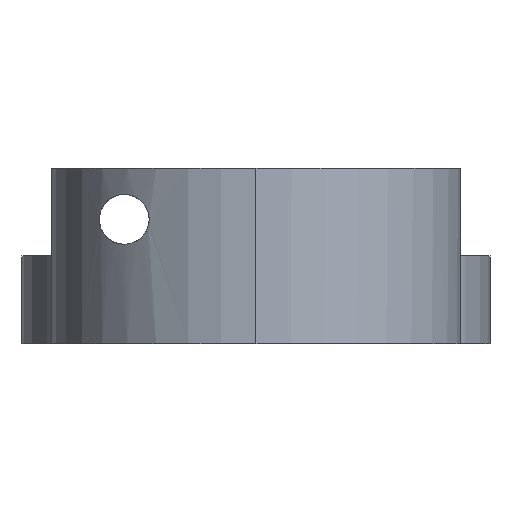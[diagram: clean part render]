
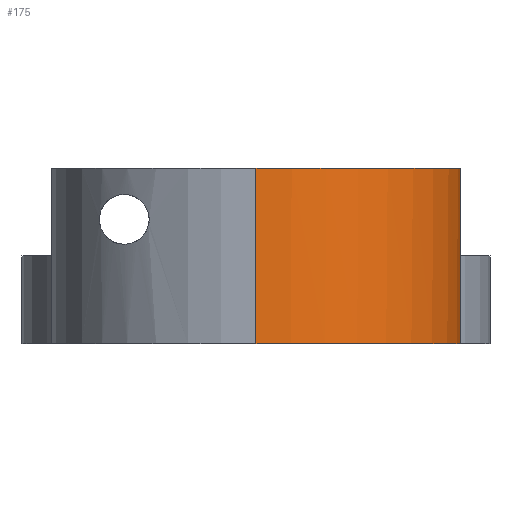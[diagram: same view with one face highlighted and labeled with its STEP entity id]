
A CAD part, left-side view. The second image highlights one B-rep face of the part: STEP entity #175.
In plain terms, the highlighted cylindrical face has radius 14 mm (diameter 28 mm), a partial arc.
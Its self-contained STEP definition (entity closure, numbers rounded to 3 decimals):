
#14 = CARTESIAN_POINT ( 'NONE',  ( 8.66, -11., 0. ) ) ;
#15 = DIRECTION ( 'NONE',  ( -1., 0., 0. ) ) ;
#18 = CIRCLE ( 'NONE', #178, 14. ) ;
#98 = LINE ( 'NONE', #553, #800 ) ;
#135 = EDGE_CURVE ( 'NONE', #830, #547, #450, .T. ) ;
#141 = ORIENTED_EDGE ( 'NONE', *, *, #135, .T. ) ;
#144 = AXIS2_PLACEMENT_3D ( 'NONE', #611, #232, #157 ) ;
#151 = EDGE_CURVE ( 'NONE', #488, #830, #736, .T. ) ;
#152 = DIRECTION ( 'NONE',  ( 0., 0., 1. ) ) ;
#157 = DIRECTION ( 'NONE',  ( 1., 0., 0. ) ) ;
#172 = ORIENTED_EDGE ( 'NONE', *, *, #486, .T. ) ;
#175 = ADVANCED_FACE ( 'NONE', ( #534 ), #302, .T. ) ;
#178 = AXIS2_PLACEMENT_3D ( 'NONE', #856, #456, #778 ) ;
#203 = VECTOR ( 'NONE', #824, 1000. ) ;
#220 = VERTEX_POINT ( 'NONE', #651 ) ;
#224 = DIRECTION ( 'NONE',  ( 1., 0., 0. ) ) ;
#232 = DIRECTION ( 'NONE',  ( 0., 0., 1. ) ) ;
#250 = DIRECTION ( 'NONE',  ( 0., 0., -1. ) ) ;
#257 = DIRECTION ( 'NONE',  ( 0., 0., -1. ) ) ;
#302 = CYLINDRICAL_SURFACE ( 'NONE', #903, 14. ) ;
#320 = CIRCLE ( 'NONE', #144, 14. ) ;
#373 = CARTESIAN_POINT ( 'NONE',  ( 8.66, -11., 12. ) ) ;
#384 = CARTESIAN_POINT ( 'NONE',  ( 0., 0., 12. ) ) ;
#406 = CARTESIAN_POINT ( 'NONE',  ( 14., 0., 6. ) ) ;
#450 = CIRCLE ( 'NONE', #697, 14. ) ;
#451 = ORIENTED_EDGE ( 'NONE', *, *, #151, .T. ) ;
#452 = CARTESIAN_POINT ( 'NONE',  ( -14., 0., 12. ) ) ;
#453 = CARTESIAN_POINT ( 'NONE',  ( 8.66, -11., 6. ) ) ;
#456 = DIRECTION ( 'NONE',  ( 0., 0., 1. ) ) ;
#486 = EDGE_CURVE ( 'NONE', #634, #757, #18, .T. ) ;
#488 = VERTEX_POINT ( 'NONE', #452 ) ;
#503 = EDGE_CURVE ( 'NONE', #547, #634, #699, .T. ) ;
#523 = CARTESIAN_POINT ( 'NONE',  ( -14., 0., 12. ) ) ;
#524 = EDGE_CURVE ( 'NONE', #488, #220, #320, .T. ) ;
#534 = FACE_OUTER_BOUND ( 'NONE', #556, .T. ) ;
#547 = VERTEX_POINT ( 'NONE', #14 ) ;
#553 = CARTESIAN_POINT ( 'NONE',  ( 14., 0., 12. ) ) ;
#556 = EDGE_LOOP ( 'NONE', ( #620, #721, #451, #141, #666, #172 ) ) ;
#566 = EDGE_CURVE ( 'NONE', #220, #757, #98, .T. ) ;
#604 = CARTESIAN_POINT ( 'NONE',  ( 0., 0., 0. ) ) ;
#611 = CARTESIAN_POINT ( 'NONE',  ( 0., 0., 12. ) ) ;
#620 = ORIENTED_EDGE ( 'NONE', *, *, #566, .F. ) ;
#634 = VERTEX_POINT ( 'NONE', #453 ) ;
#651 = CARTESIAN_POINT ( 'NONE',  ( 14., 0., 12. ) ) ;
#666 = ORIENTED_EDGE ( 'NONE', *, *, #503, .T. ) ;
#670 = VECTOR ( 'NONE', #152, 1000. ) ;
#697 = AXIS2_PLACEMENT_3D ( 'NONE', #604, #914, #224 ) ;
#699 = LINE ( 'NONE', #373, #670 ) ;
#721 = ORIENTED_EDGE ( 'NONE', *, *, #524, .F. ) ;
#736 = LINE ( 'NONE', #523, #203 ) ;
#757 = VERTEX_POINT ( 'NONE', #406 ) ;
#778 = DIRECTION ( 'NONE',  ( -1., 0., 0. ) ) ;
#800 = VECTOR ( 'NONE', #257, 1000. ) ;
#824 = DIRECTION ( 'NONE',  ( 0., 0., -1. ) ) ;
#830 = VERTEX_POINT ( 'NONE', #880 ) ;
#856 = CARTESIAN_POINT ( 'NONE',  ( 0., 0., 6. ) ) ;
#880 = CARTESIAN_POINT ( 'NONE',  ( -14., 0., 0. ) ) ;
#903 = AXIS2_PLACEMENT_3D ( 'NONE', #384, #250, #15 ) ;
#914 = DIRECTION ( 'NONE',  ( 0., 0., 1. ) ) ;
